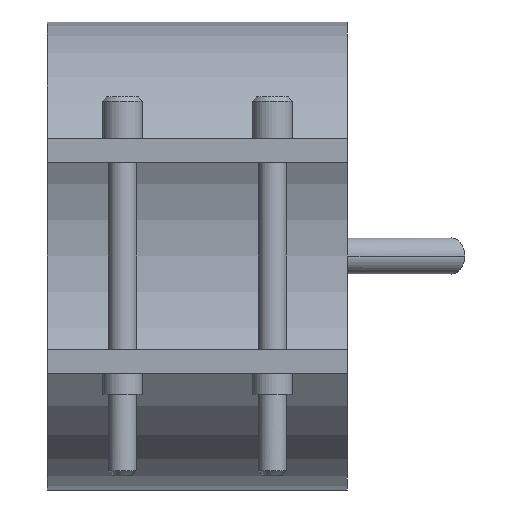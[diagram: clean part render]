
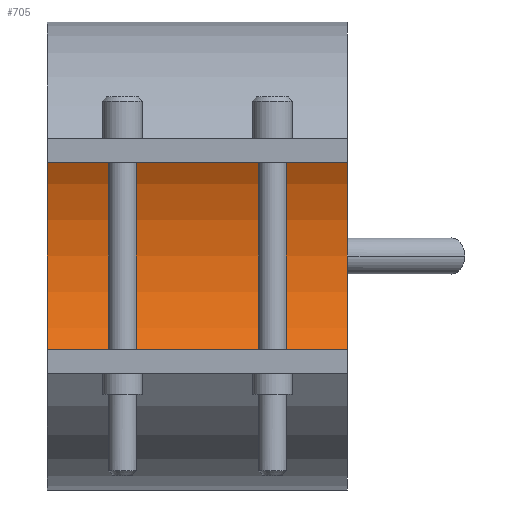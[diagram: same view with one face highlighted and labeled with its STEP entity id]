
A CAD part, front view. The second image highlights one B-rep face of the part: STEP entity #705.
In plain terms, the highlighted cylindrical face has radius 35 mm (diameter 70 mm), a partial arc.
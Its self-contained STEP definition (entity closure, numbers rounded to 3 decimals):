
#375=CARTESIAN_POINT('Vertex',(25.,0.,35.)) ;
#380=CARTESIAN_POINT('Axis2P3D Location',(25.,0.,0.)) ;
#384=CARTESIAN_POINT('Vertex',(25.,0.,-35.)) ;
#491=CARTESIAN_POINT('Vertex',(-25.,0.,-35.)) ;
#494=CARTESIAN_POINT('Axis2P3D Location',(-25.,0.,0.)) ;
#498=CARTESIAN_POINT('Vertex',(-25.,0.,35.)) ;
#677=CARTESIAN_POINT('Line Origine',(25.,0.,35.)) ;
#689=CARTESIAN_POINT('Axis2P3D Location',(25.,0.,0.)) ;
#694=CARTESIAN_POINT('Line Origine',(25.,0.,-35.)) ;
#381=DIRECTION('Axis2P3D Direction',(1.,0.,0.)) ;
#495=DIRECTION('Axis2P3D Direction',(1.,0.,0.)) ;
#678=DIRECTION('Vector Direction',(1.,0.,0.)) ;
#690=DIRECTION('Axis2P3D Direction',(1.,0.,-0.)) ;
#691=DIRECTION('Axis2P3D XDirection',(0.,0.,-1.)) ;
#695=DIRECTION('Vector Direction',(1.,0.,0.)) ;
#382=AXIS2_PLACEMENT_3D('Circle Axis2P3D',#380,#381,$) ;
#496=AXIS2_PLACEMENT_3D('Circle Axis2P3D',#494,#495,$) ;
#692=AXIS2_PLACEMENT_3D('Cylinder Axis2P3D',#689,#690,#691) ;
#700=ORIENTED_EDGE('',*,*,#386,.T.) ;
#701=ORIENTED_EDGE('',*,*,#681,.T.) ;
#702=ORIENTED_EDGE('',*,*,#500,.F.) ;
#703=ORIENTED_EDGE('',*,*,#698,.T.) ;
#679=VECTOR('Line Direction',#678,1.) ;
#696=VECTOR('Line Direction',#695,1.) ;
#705=ADVANCED_FACE('29070050',(#704),#693,.F.) ;
#383=CIRCLE('generated circle',#382,35.) ;
#497=CIRCLE('generated circle',#496,35.) ;
#693=CYLINDRICAL_SURFACE('generated cylinder',#692,35.) ;
#386=EDGE_CURVE('',#385,#376,#383,.T.) ;
#500=EDGE_CURVE('',#492,#499,#497,.T.) ;
#681=EDGE_CURVE('',#376,#499,#680,.F.) ;
#698=EDGE_CURVE('',#492,#385,#697,.T.) ;
#699=EDGE_LOOP('',(#700,#701,#702,#703)) ;
#704=FACE_OUTER_BOUND('',#699,.T.) ;
#680=LINE('Line',#677,#679) ;
#697=LINE('Line',#694,#696) ;
#376=VERTEX_POINT('',#375) ;
#385=VERTEX_POINT('',#384) ;
#492=VERTEX_POINT('',#491) ;
#499=VERTEX_POINT('',#498) ;
